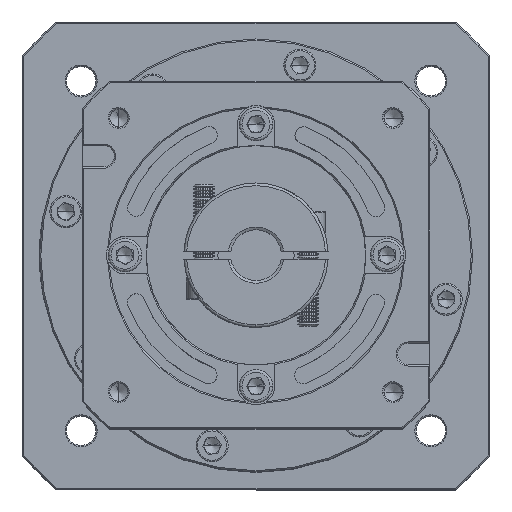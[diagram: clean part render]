
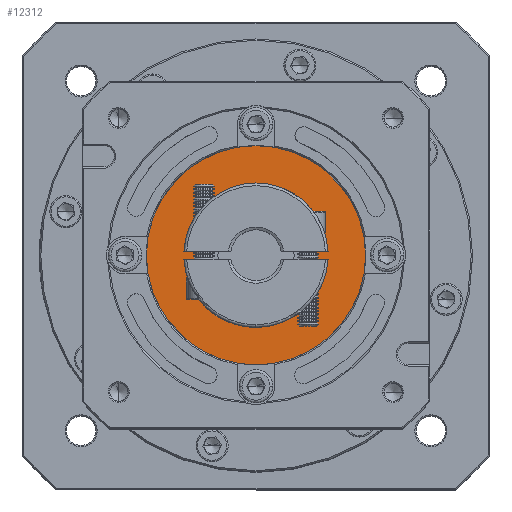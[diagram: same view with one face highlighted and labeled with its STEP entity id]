
A CAD part, top view. The second image highlights one B-rep face of the part: STEP entity #12312.
In plain terms, the highlighted planar face has unit normal (0, 0, 1).
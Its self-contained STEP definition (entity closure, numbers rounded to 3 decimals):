
#1452 = EDGE_LOOP ( 'NONE', ( #81320, #104783 ) ) ;
#8113 = CARTESIAN_POINT ( 'NONE',  ( -93.129, 74.667, -64.933 ) ) ;
#10487 = DIRECTION ( 'NONE',  ( 1., 0., 0. ) ) ;
#11834 = DIRECTION ( 'NONE',  ( 1., 0., 0. ) ) ;
#12312 = ADVANCED_FACE ( 'NONE', ( #19331, #56710 ), #84275, .T. ) ;
#15255 = DIRECTION ( 'NONE',  ( 1., 0., 0. ) ) ;
#19331 = FACE_OUTER_BOUND ( 'NONE', #1452, .T. ) ;
#21192 = EDGE_CURVE ( 'NONE', #94214, #47400, #74008, .T. ) ;
#24838 = VERTEX_POINT ( 'NONE', #109574 ) ;
#25402 = CARTESIAN_POINT ( 'NONE',  ( -134.129, 74.667, -64.933 ) ) ;
#29327 = DIRECTION ( 'NONE',  ( 0., 0., -1. ) ) ;
#32885 = AXIS2_PLACEMENT_3D ( 'NONE', #45855, #29327, #11834 ) ;
#41045 = DIRECTION ( 'NONE',  ( 0., 0., 1. ) ) ;
#41797 = CARTESIAN_POINT ( 'NONE',  ( -93.129, 74.667, -64.933 ) ) ;
#42179 = VERTEX_POINT ( 'NONE', #84732 ) ;
#45855 = CARTESIAN_POINT ( 'NONE',  ( -93.129, 74.667, -64.933 ) ) ;
#47054 = EDGE_CURVE ( 'NONE', #47400, #94214, #92642, .T. ) ;
#47400 = VERTEX_POINT ( 'NONE', #25402 ) ;
#53005 = EDGE_CURVE ( 'NONE', #24838, #42179, #81300, .T. ) ;
#53421 = DIRECTION ( 'NONE',  ( 0., 0., -1. ) ) ;
#56710 = FACE_BOUND ( 'NONE', #110215, .T. ) ;
#59629 = DIRECTION ( 'NONE',  ( 1., 0., 0. ) ) ;
#62672 = ORIENTED_EDGE ( 'NONE', *, *, #93799, .T. ) ;
#67776 = ORIENTED_EDGE ( 'NONE', *, *, #53005, .T. ) ;
#70165 = AXIS2_PLACEMENT_3D ( 'NONE', #8113, #41045, #15255 ) ;
#74008 = CIRCLE ( 'NONE', #102160, 41. ) ;
#78199 = DIRECTION ( 'NONE',  ( 0., 0., 1. ) ) ;
#79569 = AXIS2_PLACEMENT_3D ( 'NONE', #103499, #53421, #10487 ) ;
#81300 = CIRCLE ( 'NONE', #79569, 20. ) ;
#81320 = ORIENTED_EDGE ( 'NONE', *, *, #21192, .T. ) ;
#84275 = PLANE ( 'NONE',  #70165 ) ;
#84732 = CARTESIAN_POINT ( 'NONE',  ( -73.129, 74.667, -64.933 ) ) ;
#92642 = CIRCLE ( 'NONE', #93636, 41. ) ;
#93636 = AXIS2_PLACEMENT_3D ( 'NONE', #104376, #78199, #94331 ) ;
#93799 = EDGE_CURVE ( 'NONE', #42179, #24838, #104756, .T. ) ;
#94214 = VERTEX_POINT ( 'NONE', #105077 ) ;
#94331 = DIRECTION ( 'NONE',  ( 1., 0., 0. ) ) ;
#101533 = DIRECTION ( 'NONE',  ( 0., 0., 1. ) ) ;
#102160 = AXIS2_PLACEMENT_3D ( 'NONE', #41797, #101533, #59629 ) ;
#103499 = CARTESIAN_POINT ( 'NONE',  ( -93.129, 74.667, -64.933 ) ) ;
#104376 = CARTESIAN_POINT ( 'NONE',  ( -93.129, 74.667, -64.933 ) ) ;
#104756 = CIRCLE ( 'NONE', #32885, 20. ) ;
#104783 = ORIENTED_EDGE ( 'NONE', *, *, #47054, .T. ) ;
#105077 = CARTESIAN_POINT ( 'NONE',  ( -52.129, 74.667, -64.933 ) ) ;
#109574 = CARTESIAN_POINT ( 'NONE',  ( -113.129, 74.667, -64.933 ) ) ;
#110215 = EDGE_LOOP ( 'NONE', ( #62672, #67776 ) ) ;
